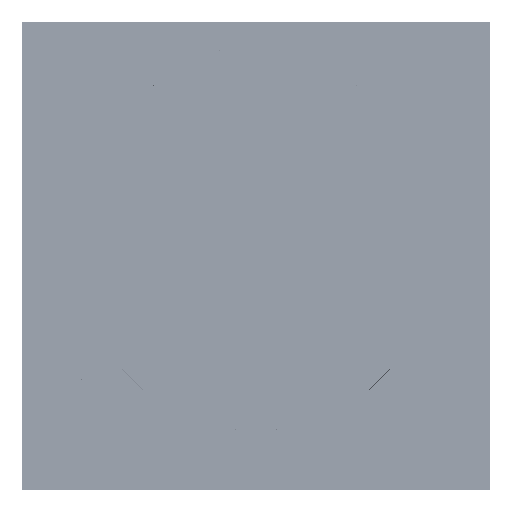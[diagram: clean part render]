
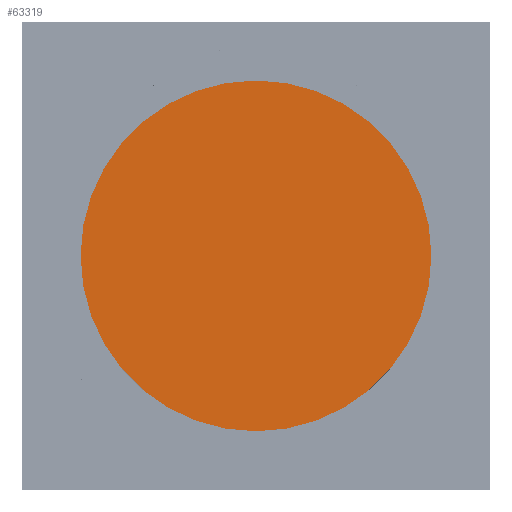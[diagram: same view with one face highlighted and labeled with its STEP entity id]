
A CAD part, top view. The second image highlights one B-rep face of the part: STEP entity #63319.
In plain terms, the highlighted planar face has unit normal (0, 0, 1).
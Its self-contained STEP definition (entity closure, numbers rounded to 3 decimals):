
#9103=PLANE('',#67870);
#12713=FACE_OUTER_BOUND('',#17129,.T.);
#17129=EDGE_LOOP('',(#41081));
#23063=CIRCLE('',#67868,15.);
#26735=VERTEX_POINT('',#94183);
#32515=EDGE_CURVE('',#26735,#26735,#23063,.T.);
#41081=ORIENTED_EDGE('',*,*,#32515,.T.);
#63319=ADVANCED_FACE('',(#12713),#9103,.T.);
#67868=AXIS2_PLACEMENT_3D('',#94184,#75810,#75811);
#67870=AXIS2_PLACEMENT_3D('',#94186,#75814,#75815);
#75810=DIRECTION('center_axis',(0.,0.,
1.));
#75811=DIRECTION('ref_axis',(-1.,0.,0.));
#75814=DIRECTION('center_axis',(0.,0.,
1.));
#75815=DIRECTION('ref_axis',(-1.,0.,0.));
#94183=CARTESIAN_POINT('',(15.,0.,12.));
#94184=CARTESIAN_POINT('Origin',(0.,0.,12.));
#94186=CARTESIAN_POINT('Origin',(0.,0.,12.));
